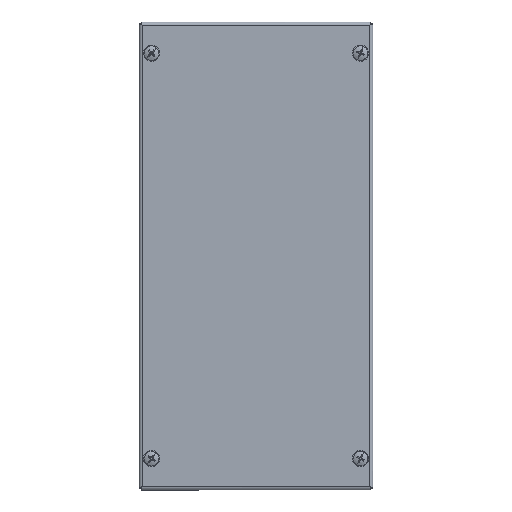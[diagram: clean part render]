
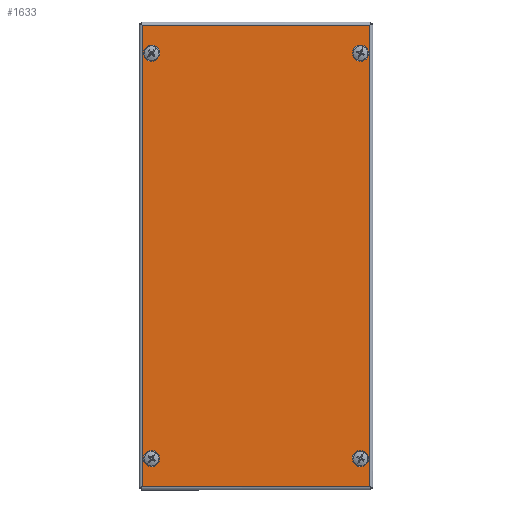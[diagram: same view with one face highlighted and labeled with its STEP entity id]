
A CAD part, top view. The second image highlights one B-rep face of the part: STEP entity #1633.
In plain terms, the highlighted planar face has unit normal (0, 0, 1) as drawn and (0, 0, -1) by its records, which use the part's own axes.
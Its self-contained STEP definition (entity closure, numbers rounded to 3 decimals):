
#57 = CIRCLE ( 'NONE', #6343, 4. ) ;
#151 = DIRECTION ( 'NONE',  ( 1., 0., 0. ) ) ;
#572 = DIRECTION ( 'NONE',  ( 1., 0., 0. ) ) ;
#580 = VERTEX_POINT ( 'NONE', #8196 ) ;
#581 = FACE_BOUND ( 'NONE', #6152, .T. ) ;
#615 = CARTESIAN_POINT ( 'NONE',  ( 134., 67., -1.2 ) ) ;
#628 = EDGE_CURVE ( 'NONE', #12965, #12644, #10473, .T. ) ;
#1033 = DIRECTION ( 'NONE',  ( 1., 0., 0. ) ) ;
#1137 = VERTEX_POINT ( 'NONE', #11557 ) ;
#1205 = VECTOR ( 'NONE', #8960, 1000. ) ;
#1248 = EDGE_CURVE ( 'NONE', #12399, #3954, #2458, .T. ) ;
#1433 = ORIENTED_EDGE ( 'NONE', *, *, #13416, .T. ) ;
#1434 = CARTESIAN_POINT ( 'NONE',  ( 148.063, 73.093, -1.2 ) ) ;
#1633 = ADVANCED_FACE ( 'NONE', ( #7678, #11772, #581, #7308, #1879 ), #3310, .F. ) ;
#1879 = FACE_OUTER_BOUND ( 'NONE', #6397, .T. ) ;
#1885 = AXIS2_PLACEMENT_3D ( 'NONE', #6746, #9179, #10223 ) ;
#2050 = CARTESIAN_POINT ( 'NONE',  ( -148.063, -73.063, -1.2 ) ) ;
#2061 = ORIENTED_EDGE ( 'NONE', *, *, #8686, .T. ) ;
#2078 = VERTEX_POINT ( 'NONE', #14449 ) ;
#2138 = LINE ( 'NONE', #6670, #1205 ) ;
#2152 = DIRECTION ( 'NONE',  ( 1., 0., 0. ) ) ;
#2166 = EDGE_CURVE ( 'NONE', #1137, #15214, #7833, .T. ) ;
#2339 = CARTESIAN_POINT ( 'NONE',  ( -130., -67., -1.2 ) ) ;
#2359 = DIRECTION ( 'NONE',  ( 0., 0., 1. ) ) ;
#2384 = CARTESIAN_POINT ( 'NONE',  ( 130., 67., -1.2 ) ) ;
#2400 = DIRECTION ( 'NONE',  ( 1., 0., 0. ) ) ;
#2458 = CIRCLE ( 'NONE', #13971, 4. ) ;
#2651 = DIRECTION ( 'NONE',  ( 0., -1., 0. ) ) ;
#3057 = ORIENTED_EDGE ( 'NONE', *, *, #11605, .T. ) ;
#3310 = PLANE ( 'NONE',  #1885 ) ;
#3456 = VERTEX_POINT ( 'NONE', #5738 ) ;
#3933 = ORIENTED_EDGE ( 'NONE', *, *, #1248, .T. ) ;
#3954 = VERTEX_POINT ( 'NONE', #615 ) ;
#4229 = CIRCLE ( 'NONE', #6471, 4. ) ;
#4563 = DIRECTION ( 'NONE',  ( 1., 0., 0. ) ) ;
#4734 = LINE ( 'NONE', #11798, #7518 ) ;
#5506 = CIRCLE ( 'NONE', #15273, 4. ) ;
#5738 = CARTESIAN_POINT ( 'NONE',  ( 148.063, -73.063, -1.2 ) ) ;
#5775 = EDGE_LOOP ( 'NONE', ( #11728, #11541 ) ) ;
#6012 = LINE ( 'NONE', #11294, #13301 ) ;
#6102 = VECTOR ( 'NONE', #2651, 1000. ) ;
#6152 = EDGE_LOOP ( 'NONE', ( #7367, #3933 ) ) ;
#6343 = AXIS2_PLACEMENT_3D ( 'NONE', #15498, #2359, #4563 ) ;
#6397 = EDGE_LOOP ( 'NONE', ( #3057, #1433, #2061, #7264 ) ) ;
#6471 = AXIS2_PLACEMENT_3D ( 'NONE', #12929, #14149, #1033 ) ;
#6538 = ORIENTED_EDGE ( 'NONE', *, *, #6911, .T. ) ;
#6670 = CARTESIAN_POINT ( 'NONE',  ( 148.093, -73.063, -1.2 ) ) ;
#6746 = CARTESIAN_POINT ( 'NONE',  ( 0., 0., -1.2 ) ) ;
#6826 = CARTESIAN_POINT ( 'NONE',  ( 130., -67., -1.2 ) ) ;
#6870 = DIRECTION ( 'NONE',  ( 1., 0., 0. ) ) ;
#6911 = EDGE_CURVE ( 'NONE', #15214, #1137, #4229, .T. ) ;
#7106 = DIRECTION ( 'NONE',  ( 0., 1., 0. ) ) ;
#7241 = DIRECTION ( 'NONE',  ( 0., 0., 1. ) ) ;
#7264 = ORIENTED_EDGE ( 'NONE', *, *, #9843, .T. ) ;
#7308 = FACE_BOUND ( 'NONE', #13425, .T. ) ;
#7352 = CARTESIAN_POINT ( 'NONE',  ( 148.063, 73.063, -1.2 ) ) ;
#7367 = ORIENTED_EDGE ( 'NONE', *, *, #14380, .T. ) ;
#7518 = VECTOR ( 'NONE', #7106, 1000. ) ;
#7678 = FACE_BOUND ( 'NONE', #5775, .T. ) ;
#7716 = VERTEX_POINT ( 'NONE', #2050 ) ;
#7833 = CIRCLE ( 'NONE', #10082, 4. ) ;
#8196 = CARTESIAN_POINT ( 'NONE',  ( -148.063, 73.063, -1.2 ) ) ;
#8376 = DIRECTION ( 'NONE',  ( 1., 0., 0. ) ) ;
#8686 = EDGE_CURVE ( 'NONE', #9698, #3456, #14141, .T. ) ;
#8793 = CIRCLE ( 'NONE', #9237, 4. ) ;
#8960 = DIRECTION ( 'NONE',  ( -1., 0., 0. ) ) ;
#9179 = DIRECTION ( 'NONE',  ( 0., 0., 1. ) ) ;
#9203 = DIRECTION ( 'NONE',  ( 0., 0., 1. ) ) ;
#9237 = AXIS2_PLACEMENT_3D ( 'NONE', #2384, #7241, #151 ) ;
#9296 = ORIENTED_EDGE ( 'NONE', *, *, #628, .T. ) ;
#9377 = DIRECTION ( 'NONE',  ( 0., 0., 1. ) ) ;
#9415 = DIRECTION ( 'NONE',  ( 0., 0., 1. ) ) ;
#9487 = ORIENTED_EDGE ( 'NONE', *, *, #2166, .T. ) ;
#9531 = DIRECTION ( 'NONE',  ( 1., 0., 0. ) ) ;
#9698 = VERTEX_POINT ( 'NONE', #7352 ) ;
#9843 = EDGE_CURVE ( 'NONE', #3456, #7716, #2138, .T. ) ;
#9880 = ORIENTED_EDGE ( 'NONE', *, *, #9985, .T. ) ;
#9985 = EDGE_CURVE ( 'NONE', #12644, #12965, #15074, .T. ) ;
#10019 = EDGE_CURVE ( 'NONE', #14100, #2078, #5506, .T. ) ;
#10082 = AXIS2_PLACEMENT_3D ( 'NONE', #10729, #13139, #2400 ) ;
#10223 = DIRECTION ( 'NONE',  ( 1., 0., 0. ) ) ;
#10236 = EDGE_LOOP ( 'NONE', ( #9880, #9296 ) ) ;
#10473 = CIRCLE ( 'NONE', #12653, 4. ) ;
#10729 = CARTESIAN_POINT ( 'NONE',  ( -130., 67., -1.2 ) ) ;
#10794 = AXIS2_PLACEMENT_3D ( 'NONE', #6826, #9203, #6870 ) ;
#10799 = CARTESIAN_POINT ( 'NONE',  ( 134., -67., -1.2 ) ) ;
#11294 = CARTESIAN_POINT ( 'NONE',  ( -148.093, 73.063, -1.2 ) ) ;
#11541 = ORIENTED_EDGE ( 'NONE', *, *, #11644, .T. ) ;
#11557 = CARTESIAN_POINT ( 'NONE',  ( -126., 67., -1.2 ) ) ;
#11605 = EDGE_CURVE ( 'NONE', #7716, #580, #4734, .T. ) ;
#11644 = EDGE_CURVE ( 'NONE', #2078, #14100, #57, .T. ) ;
#11728 = ORIENTED_EDGE ( 'NONE', *, *, #10019, .T. ) ;
#11772 = FACE_BOUND ( 'NONE', #10236, .T. ) ;
#11798 = CARTESIAN_POINT ( 'NONE',  ( -148.063, -73.093, -1.2 ) ) ;
#12399 = VERTEX_POINT ( 'NONE', #14999 ) ;
#12624 = CARTESIAN_POINT ( 'NONE',  ( 126., -67., -1.2 ) ) ;
#12644 = VERTEX_POINT ( 'NONE', #10799 ) ;
#12653 = AXIS2_PLACEMENT_3D ( 'NONE', #15345, #12939, #2152 ) ;
#12929 = CARTESIAN_POINT ( 'NONE',  ( -130., 67., -1.2 ) ) ;
#12939 = DIRECTION ( 'NONE',  ( 0., 0., 1. ) ) ;
#12965 = VERTEX_POINT ( 'NONE', #12624 ) ;
#13139 = DIRECTION ( 'NONE',  ( 0., 0., 1. ) ) ;
#13301 = VECTOR ( 'NONE', #572, 1000. ) ;
#13416 = EDGE_CURVE ( 'NONE', #580, #9698, #6012, .T. ) ;
#13425 = EDGE_LOOP ( 'NONE', ( #9487, #6538 ) ) ;
#13971 = AXIS2_PLACEMENT_3D ( 'NONE', #14146, #9377, #9531 ) ;
#14100 = VERTEX_POINT ( 'NONE', #15158 ) ;
#14141 = LINE ( 'NONE', #1434, #6102 ) ;
#14146 = CARTESIAN_POINT ( 'NONE',  ( 130., 67., -1.2 ) ) ;
#14149 = DIRECTION ( 'NONE',  ( 0., 0., 1. ) ) ;
#14380 = EDGE_CURVE ( 'NONE', #3954, #12399, #8793, .T. ) ;
#14449 = CARTESIAN_POINT ( 'NONE',  ( -134., -67., -1.2 ) ) ;
#14714 = CARTESIAN_POINT ( 'NONE',  ( -134., 67., -1.2 ) ) ;
#14999 = CARTESIAN_POINT ( 'NONE',  ( 126., 67., -1.2 ) ) ;
#15074 = CIRCLE ( 'NONE', #10794, 4. ) ;
#15158 = CARTESIAN_POINT ( 'NONE',  ( -126., -67., -1.2 ) ) ;
#15214 = VERTEX_POINT ( 'NONE', #14714 ) ;
#15273 = AXIS2_PLACEMENT_3D ( 'NONE', #2339, #9415, #8376 ) ;
#15345 = CARTESIAN_POINT ( 'NONE',  ( 130., -67., -1.2 ) ) ;
#15498 = CARTESIAN_POINT ( 'NONE',  ( -130., -67., -1.2 ) ) ;
